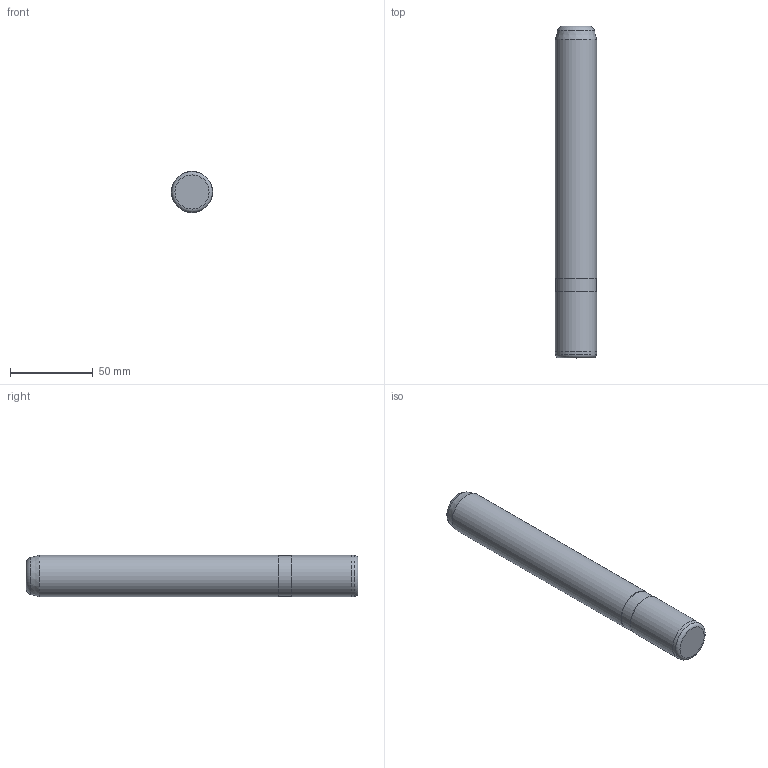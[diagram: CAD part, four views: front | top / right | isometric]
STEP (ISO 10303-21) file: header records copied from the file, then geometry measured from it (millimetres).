
FILE_DESCRIPTION( ( 'STEP AP203' ), '1' );
FILE_NAME( 'D:/Cuma/26 04 2010/D15/D15_25200.step', '2003-02-25T14:50:48', ( ' ' ), ( ' ' ), 'XStep 1.0', ' ', ' ' );
FILE_SCHEMA( ( 'CONFIG_CONTROL_DESIGN' ) );
Length unit declared in the file: metre
Products named in the file (1): 1
Bounding box: 25 x 200 x 25 mm (x, y, z)
Volume: 97166.3 mm3; surface area: 16380 mm2
Topology: 1 solids, 1 shells, 11 faces, 17 edges, 10 vertices
Faces by surface type: plane 4, cylinder 3, torus 2, cone 2
Full cylindrical faces by diameter (mm): 24.5 x1, 25 x2
Entity records: 259 total; most frequent: DIRECTION 44, CARTESIAN_POINT 32, AXIS2_PLACEMENT_3D 22, EDGE_LOOP 20, ORIENTED_EDGE 20, FACE_OUTER_BOUND 16, ADVANCED_FACE 11, EDGE_CURVE 10
